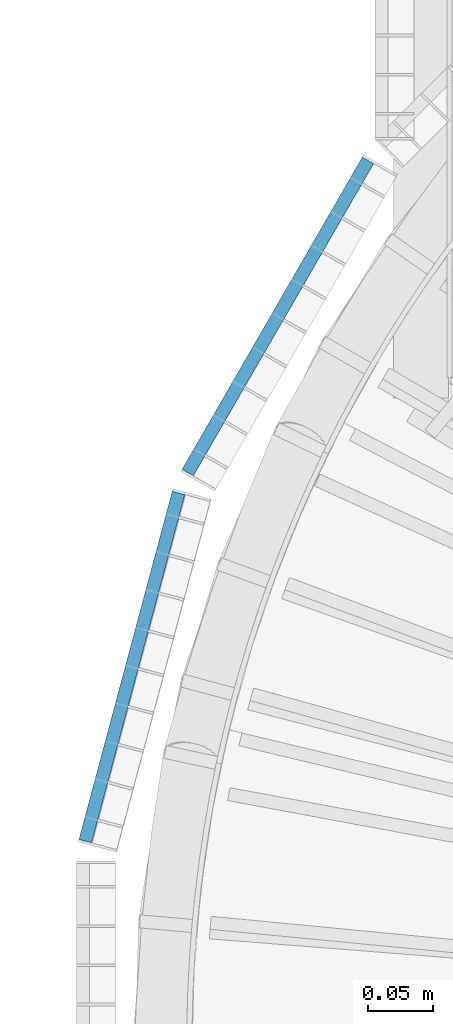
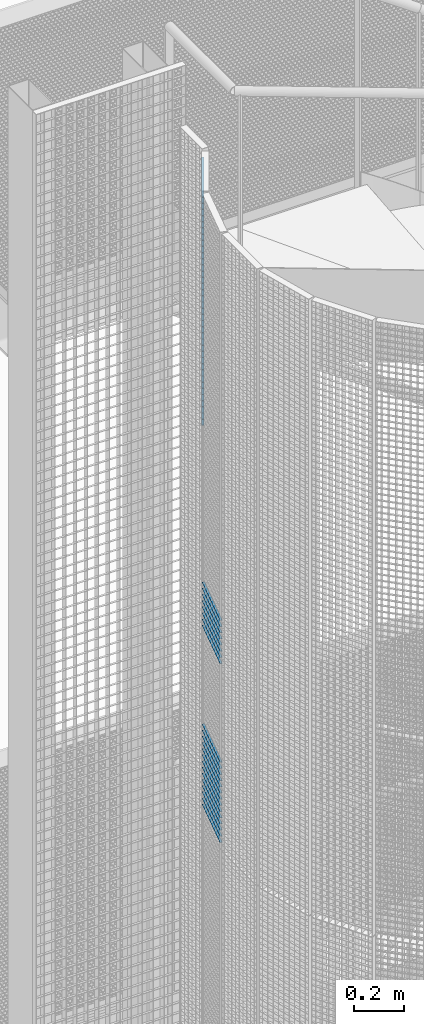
# One storey, part 179 of 1148: 60 beams, 2 elements without a shape of their own.
"""IFC2X3 building model written with IfcOpenShell, lengths in millimetres."""

from ifc_helpers import new_model, si_unit, frame, origin_with_axes, origin_2d_with_axis, place, context, subcontext, project, spatial, rectangle, extrude, material, type_object, element, aggregate, save


model = new_model("IFC2X3")

# Units and contexts
model_context = context("Model", 3, precision=1e-05, world=origin_with_axes())
body_context = subcontext(model_context, "Body", "Model", "MODEL_VIEW")
ifc_project = project(units=[si_unit("LENGTHUNIT", "METRE", prefix="MILLI"), si_unit("AREAUNIT", "SQUARE_METRE"), si_unit("VOLUMEUNIT", "CUBIC_METRE"), si_unit("MASSUNIT", "GRAM", prefix="KILO"), si_unit("TIMEUNIT", "SECOND"), si_unit("PLANEANGLEUNIT", "RADIAN"), si_unit("SOLIDANGLEUNIT", "STERADIAN"), si_unit("THERMODYNAMICTEMPERATUREUNIT", "DEGREE_CELSIUS"), si_unit("LUMINOUSINTENSITYUNIT", "LUMEN")], contexts=[model_context])

# Site, building, storey
site_placement = place(None, origin_with_axes())
site = spatial("IfcSite", under=ifc_project, at=site_placement, Name="Undefined", CompositionType="ELEMENT")
building_placement = place(site_placement, origin_with_axes())
building = spatial("IfcBuilding", under=site, at=building_placement, Name="Undefined", CompositionType="ELEMENT")
storey_placement = place(building_placement, origin_with_axes())
storey = spatial("IfcBuildingStorey", under=building, at=storey_placement, Name="Undefined", CompositionType="ELEMENT", Elevation=0.0)

# Assembly, beams
assembly_1_placement = place(storey_placement, origin_with_axes())
assembly_1 = element("IfcElementAssembly", 1, at=assembly_1_placement, inside=storey, Name="BORDURE", AssemblyPlace="NOTDEFINED", PredefinedType="NOTDEFINED")
ifc_material = material(Name="STEEL/S235JR")
beam_type = type_object("IfcBeamType", Name="PL2*10", PredefinedType="NOTDEFINED")
beam_1_placement = place(assembly_1_placement, frame((-1040.30888419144, 421.618038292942, 15420.0), z_axis=(-0.965925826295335, 0.258819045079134, 0.0), x_axis=(-0.258819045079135, -0.965925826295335, 0.0)))
beam_1 = element("IfcBeam", 2, at=beam_1_placement, type_object=beam_type, material=ifc_material, Name="ENTRETOISE", context=body_context, shape_type="SweptSolid", body=[
    extrude(rectangle(XDim=2.0, YDim=10.0, at=origin_2d_with_axis()), frame((275.999999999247, 9.09494701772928e-13, 1.53210777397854e-14), z_axis=(-1.0, 0.0, 0.0), x_axis=(0.0, -1.0, 0.0)), (0.0, 0.0, 1.0), 276.0),
])
beam_2_placement = place(assembly_1_placement, frame((-1040.30888419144, 421.618038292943, 15900.0), z_axis=(-0.965925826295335, 0.258819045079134, 0.0), x_axis=(-0.258819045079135, -0.965925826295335, 0.0)))
beam_2 = element("IfcBeam", 3, at=beam_2_placement, type_object=beam_type, material=ifc_material, Name="ENTRETOISE", context=body_context, shape_type="SweptSolid", body=[
    extrude(rectangle(XDim=2.0, YDim=10.0, at=origin_2d_with_axis()), frame((275.999999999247, 9.09494701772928e-13, 1.53210777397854e-14), z_axis=(-1.0, 0.0, 0.0), x_axis=(0.0, -1.0, 0.0)), (0.0, 0.0, 1.0), 276.0),
])
beam_3_placement = place(assembly_1_placement, frame((-1040.30888419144, 421.618038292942, 15390.0), z_axis=(-0.965925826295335, 0.258819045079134, 0.0), x_axis=(-0.258819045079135, -0.965925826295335, 0.0)))
beam_3 = element("IfcBeam", 4, at=beam_3_placement, type_object=beam_type, material=ifc_material, Name="ENTRETOISE", context=body_context, shape_type="SweptSolid", body=[
    extrude(rectangle(XDim=2.0, YDim=10.0, at=origin_2d_with_axis()), frame((275.999999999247, 9.09494701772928e-13, 1.53210777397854e-14), z_axis=(-1.0, 0.0, 0.0), x_axis=(0.0, -1.0, 0.0)), (0.0, 0.0, 1.0), 276.0),
])
beam_4_placement = place(assembly_1_placement, frame((-1040.30888419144, 421.618038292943, 15930.0), z_axis=(-0.965925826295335, 0.258819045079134, 0.0), x_axis=(-0.258819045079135, -0.965925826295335, 0.0)))
beam_4 = element("IfcBeam", 5, at=beam_4_placement, type_object=beam_type, material=ifc_material, Name="ENTRETOISE", context=body_context, shape_type="SweptSolid", body=[
    extrude(rectangle(XDim=2.0, YDim=10.0, at=origin_2d_with_axis()), frame((275.999999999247, 9.09494701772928e-13, 1.53210777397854e-14), z_axis=(-1.0, 0.0, 0.0), x_axis=(0.0, -1.0, 0.0)), (0.0, 0.0, 1.0), 276.0),
])
beam_5_placement = place(assembly_1_placement, frame((-1040.30888419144, 421.618038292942, 15360.0), z_axis=(-0.965925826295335, 0.258819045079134, 0.0), x_axis=(-0.258819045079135, -0.965925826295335, 0.0)))
beam_5 = element("IfcBeam", 6, at=beam_5_placement, type_object=beam_type, material=ifc_material, Name="ENTRETOISE", context=body_context, shape_type="SweptSolid", body=[
    extrude(rectangle(XDim=2.0, YDim=10.0, at=origin_2d_with_axis()), frame((275.999999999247, 9.09494701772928e-13, 1.53210777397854e-14), z_axis=(-1.0, 0.0, 0.0), x_axis=(0.0, -1.0, 0.0)), (0.0, 0.0, 1.0), 276.0),
])
beam_6_placement = place(assembly_1_placement, frame((-1040.30888419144, 421.618038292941, 15330.0), z_axis=(-0.965925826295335, 0.258819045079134, 0.0), x_axis=(-0.258819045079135, -0.965925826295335, 0.0)))
beam_6 = element("IfcBeam", 7, at=beam_6_placement, type_object=beam_type, material=ifc_material, Name="ENTRETOISE", context=body_context, shape_type="SweptSolid", body=[
    extrude(rectangle(XDim=2.0, YDim=10.0, at=origin_2d_with_axis()), frame((275.999999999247, 9.09494701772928e-13, 1.53210777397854e-14), z_axis=(-1.0, 0.0, 0.0), x_axis=(0.0, -1.0, 0.0)), (0.0, 0.0, 1.0), 276.0),
])
beam_7_placement = place(assembly_1_placement, frame((-1040.30888419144, 421.618038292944, 15960.0), z_axis=(-0.965925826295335, 0.258819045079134, 0.0), x_axis=(-0.258819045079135, -0.965925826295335, 0.0)))
beam_7 = element("IfcBeam", 8, at=beam_7_placement, type_object=beam_type, material=ifc_material, Name="ENTRETOISE", context=body_context, shape_type="SweptSolid", body=[
    extrude(rectangle(XDim=2.0, YDim=10.0, at=origin_2d_with_axis()), frame((275.999999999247, 9.09494701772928e-13, 1.53210777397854e-14), z_axis=(-1.0, 0.0, 0.0), x_axis=(0.0, -1.0, 0.0)), (0.0, 0.0, 1.0), 276.0),
])
beam_8_placement = place(assembly_1_placement, frame((-1040.30888419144, 421.618038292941, 15300.0), z_axis=(-0.965925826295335, 0.258819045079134, 0.0), x_axis=(-0.258819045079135, -0.965925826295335, 0.0)))
beam_8 = element("IfcBeam", 9, at=beam_8_placement, type_object=beam_type, material=ifc_material, Name="ENTRETOISE", context=body_context, shape_type="SweptSolid", body=[
    extrude(rectangle(XDim=2.0, YDim=10.0, at=origin_2d_with_axis()), frame((275.999999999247, 9.09494701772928e-13, 1.53210777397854e-14), z_axis=(-1.0, 0.0, 0.0), x_axis=(0.0, -1.0, 0.0)), (0.0, 0.0, 1.0), 276.0),
])
beam_9_placement = place(assembly_1_placement, frame((-1040.30888419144, 421.618038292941, 15270.0), z_axis=(-0.965925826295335, 0.258819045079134, 0.0), x_axis=(-0.258819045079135, -0.965925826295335, 0.0)))
beam_9 = element("IfcBeam", 10, at=beam_9_placement, type_object=beam_type, material=ifc_material, Name="ENTRETOISE", context=body_context, shape_type="SweptSolid", body=[
    extrude(rectangle(XDim=2.0, YDim=10.0, at=origin_2d_with_axis()), frame((275.999999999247, 9.09494701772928e-13, 1.53210777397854e-14), z_axis=(-1.0, 0.0, 0.0), x_axis=(0.0, -1.0, 0.0)), (0.0, 0.0, 1.0), 276.0),
])
beam_10_placement = place(assembly_1_placement, frame((-1040.30888419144, 421.618038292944, 15990.0), z_axis=(-0.965925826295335, 0.258819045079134, 0.0), x_axis=(-0.258819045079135, -0.965925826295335, 0.0)))
beam_10 = element("IfcBeam", 11, at=beam_10_placement, type_object=beam_type, material=ifc_material, Name="ENTRETOISE", context=body_context, shape_type="SweptSolid", body=[
    extrude(rectangle(XDim=2.0, YDim=10.0, at=origin_2d_with_axis()), frame((275.999999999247, 9.09494701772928e-13, 1.53210777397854e-14), z_axis=(-1.0, 0.0, 0.0), x_axis=(0.0, -1.0, 0.0)), (0.0, 0.0, 1.0), 276.0),
])
beam_11_placement = place(assembly_1_placement, frame((-1040.30888419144, 421.618038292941, 15240.0), z_axis=(-0.965925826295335, 0.258819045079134, 0.0), x_axis=(-0.258819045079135, -0.965925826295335, 0.0)))
beam_11 = element("IfcBeam", 12, at=beam_11_placement, type_object=beam_type, material=ifc_material, Name="ENTRETOISE", context=body_context, shape_type="SweptSolid", body=[
    extrude(rectangle(XDim=2.0, YDim=10.0, at=origin_2d_with_axis()), frame((275.999999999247, 9.09494701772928e-13, 1.53210777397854e-14), z_axis=(-1.0, 0.0, 0.0), x_axis=(0.0, -1.0, 0.0)), (0.0, 0.0, 1.0), 276.0),
])
beam_12_placement = place(assembly_1_placement, frame((-1040.30888419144, 421.618038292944, 16020.0), z_axis=(-0.965925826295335, 0.258819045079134, 0.0), x_axis=(-0.258819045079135, -0.965925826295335, 0.0)))
beam_12 = element("IfcBeam", 13, at=beam_12_placement, type_object=beam_type, material=ifc_material, Name="ENTRETOISE", context=body_context, shape_type="SweptSolid", body=[
    extrude(rectangle(XDim=2.0, YDim=10.0, at=origin_2d_with_axis()), frame((275.999999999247, 9.09494701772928e-13, 1.53210777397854e-14), z_axis=(-1.0, 0.0, 0.0), x_axis=(0.0, -1.0, 0.0)), (0.0, 0.0, 1.0), 276.0),
])
beam_13_placement = place(assembly_1_placement, frame((-1040.30888419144, 421.618038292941, 15210.0), z_axis=(-0.965925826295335, 0.258819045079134, 0.0), x_axis=(-0.258819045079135, -0.965925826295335, 0.0)))
beam_13 = element("IfcBeam", 14, at=beam_13_placement, type_object=beam_type, material=ifc_material, Name="ENTRETOISE", context=body_context, shape_type="SweptSolid", body=[
    extrude(rectangle(XDim=2.0, YDim=10.0, at=origin_2d_with_axis()), frame((275.999999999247, 9.09494701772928e-13, 1.53210777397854e-14), z_axis=(-1.0, 0.0, 0.0), x_axis=(0.0, -1.0, 0.0)), (0.0, 0.0, 1.0), 276.0),
])
beam_14_placement = place(assembly_1_placement, frame((-1040.30888419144, 421.618038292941, 15180.0), z_axis=(-0.965925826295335, 0.258819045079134, 0.0), x_axis=(-0.258819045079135, -0.965925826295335, 0.0)))
beam_14 = element("IfcBeam", 15, at=beam_14_placement, type_object=beam_type, material=ifc_material, Name="ENTRETOISE", context=body_context, shape_type="SweptSolid", body=[
    extrude(rectangle(XDim=2.0, YDim=10.0, at=origin_2d_with_axis()), frame((275.999999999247, 9.09494701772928e-13, 1.53210777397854e-14), z_axis=(-1.0, 0.0, 0.0), x_axis=(0.0, -1.0, 0.0)), (0.0, 0.0, 1.0), 276.0),
])
beam_15_placement = place(assembly_1_placement, frame((-1040.30888419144, 421.618038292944, 16050.0), z_axis=(-0.965925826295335, 0.258819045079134, 0.0), x_axis=(-0.258819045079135, -0.965925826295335, 0.0)))
beam_15 = element("IfcBeam", 16, at=beam_15_placement, type_object=beam_type, material=ifc_material, Name="ENTRETOISE", context=body_context, shape_type="SweptSolid", body=[
    extrude(rectangle(XDim=2.0, YDim=10.0, at=origin_2d_with_axis()), frame((275.999999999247, 9.09494701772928e-13, 1.53210777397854e-14), z_axis=(-1.0, 0.0, 0.0), x_axis=(0.0, -1.0, 0.0)), (0.0, 0.0, 1.0), 276.0),
])
beam_16_placement = place(assembly_1_placement, frame((-1040.30888419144, 421.618038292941, 15150.0), z_axis=(-0.965925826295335, 0.258819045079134, 0.0), x_axis=(-0.258819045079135, -0.965925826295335, 0.0)))
beam_16 = element("IfcBeam", 17, at=beam_16_placement, type_object=beam_type, material=ifc_material, Name="ENTRETOISE", context=body_context, shape_type="SweptSolid", body=[
    extrude(rectangle(XDim=2.0, YDim=10.0, at=origin_2d_with_axis()), frame((275.999999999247, 9.09494701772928e-13, 1.53210777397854e-14), z_axis=(-1.0, 0.0, 0.0), x_axis=(0.0, -1.0, 0.0)), (0.0, 0.0, 1.0), 276.0),
])
beam_17_placement = place(assembly_1_placement, frame((-1040.30888419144, 421.618038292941, 15120.0), z_axis=(-0.965925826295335, 0.258819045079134, 0.0), x_axis=(-0.258819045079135, -0.965925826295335, 0.0)))
beam_17 = element("IfcBeam", 18, at=beam_17_placement, type_object=beam_type, material=ifc_material, Name="ENTRETOISE", context=body_context, shape_type="SweptSolid", body=[
    extrude(rectangle(XDim=2.0, YDim=10.0, at=origin_2d_with_axis()), frame((275.999999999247, 9.09494701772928e-13, 1.53210777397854e-14), z_axis=(-1.0, 0.0, 0.0), x_axis=(0.0, -1.0, 0.0)), (0.0, 0.0, 1.0), 276.0),
])
beam_18_placement = place(assembly_1_placement, frame((-1040.30888419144, 421.618038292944, 16080.0), z_axis=(-0.965925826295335, 0.258819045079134, 0.0), x_axis=(-0.258819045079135, -0.965925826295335, 0.0)))
beam_18 = element("IfcBeam", 19, at=beam_18_placement, type_object=beam_type, material=ifc_material, Name="ENTRETOISE", context=body_context, shape_type="SweptSolid", body=[
    extrude(rectangle(XDim=2.0, YDim=10.0, at=origin_2d_with_axis()), frame((275.999999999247, 9.09494701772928e-13, 1.53210777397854e-14), z_axis=(-1.0, 0.0, 0.0), x_axis=(0.0, -1.0, 0.0)), (0.0, 0.0, 1.0), 276.0),
])
beam_19_placement = place(assembly_1_placement, frame((-1040.30888419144, 421.618038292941, 15090.0), z_axis=(-0.965925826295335, 0.258819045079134, 0.0), x_axis=(-0.258819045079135, -0.965925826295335, 0.0)))
beam_19 = element("IfcBeam", 20, at=beam_19_placement, type_object=beam_type, material=ifc_material, Name="ENTRETOISE", context=body_context, shape_type="SweptSolid", body=[
    extrude(rectangle(XDim=2.0, YDim=10.0, at=origin_2d_with_axis()), frame((275.999999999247, 9.09494701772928e-13, 1.53210777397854e-14), z_axis=(-1.0, 0.0, 0.0), x_axis=(0.0, -1.0, 0.0)), (0.0, 0.0, 1.0), 276.0),
])
beam_20_placement = place(assembly_1_placement, frame((-1040.30888419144, 421.618038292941, 15060.0), z_axis=(-0.965925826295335, 0.258819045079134, 0.0), x_axis=(-0.258819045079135, -0.965925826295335, 0.0)))
beam_20 = element("IfcBeam", 21, at=beam_20_placement, type_object=beam_type, material=ifc_material, Name="ENTRETOISE", context=body_context, shape_type="SweptSolid", body=[
    extrude(rectangle(XDim=2.0, YDim=10.0, at=origin_2d_with_axis()), frame((275.999999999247, 9.09494701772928e-13, 1.53210777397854e-14), z_axis=(-1.0, 0.0, 0.0), x_axis=(0.0, -1.0, 0.0)), (0.0, 0.0, 1.0), 276.0),
])
beam_21_placement = place(assembly_1_placement, frame((-1040.30888419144, 421.618038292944, 16110.0), z_axis=(-0.965925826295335, 0.258819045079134, 0.0), x_axis=(-0.258819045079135, -0.965925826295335, 0.0)))
beam_21 = element("IfcBeam", 22, at=beam_21_placement, type_object=beam_type, material=ifc_material, Name="ENTRETOISE", context=body_context, shape_type="SweptSolid", body=[
    extrude(rectangle(XDim=2.0, YDim=10.0, at=origin_2d_with_axis()), frame((275.999999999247, 9.09494701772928e-13, 1.53210777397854e-14), z_axis=(-1.0, 0.0, 0.0), x_axis=(0.0, -1.0, 0.0)), (0.0, 0.0, 1.0), 276.0),
])
beam_22_placement = place(assembly_1_placement, frame((-1040.30888419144, 421.618038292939, 15030.0), z_axis=(-0.965925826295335, 0.258819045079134, 0.0), x_axis=(-0.258819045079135, -0.965925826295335, 0.0)))
beam_22 = element("IfcBeam", 23, at=beam_22_placement, type_object=beam_type, material=ifc_material, Name="ENTRETOISE", context=body_context, shape_type="SweptSolid", body=[
    extrude(rectangle(XDim=2.0, YDim=10.0, at=origin_2d_with_axis()), frame((275.999999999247, 9.09494701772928e-13, 1.53210777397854e-14), z_axis=(-1.0, 0.0, 0.0), x_axis=(0.0, -1.0, 0.0)), (0.0, 0.0, 1.0), 276.0),
])
aggregate(assembly_1, [beam_1, beam_2, beam_3, beam_4, beam_5, beam_6, beam_7, beam_8, beam_9, beam_10, beam_11, beam_12, beam_13, beam_14, beam_15, beam_16, beam_17, beam_18, beam_19, beam_20, beam_21, beam_22])

assembly_2_placement = place(storey_placement, origin_with_axes())
assembly_2 = element("IfcElementAssembly", 24, at=assembly_2_placement, inside=storey, Name="BORDURE", AssemblyPlace="NOTDEFINED", PredefinedType="NOTDEFINED")
beam_23_placement = place(assembly_2_placement, frame((-895.303964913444, 676.248044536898, 17970.0), z_axis=(-0.866025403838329, 0.499999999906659, 0.0), x_axis=(-0.49999999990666, -0.866025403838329, 0.0)))
beam_23 = element("IfcBeam", 25, at=beam_23_placement, type_object=beam_type, material=ifc_material, Name="ENTRETOISE", context=body_context, shape_type="SweptSolid", body=[
    extrude(rectangle(XDim=2.0, YDim=10.0, at=origin_2d_with_axis()), frame((275.999999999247, 9.09494701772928e-13, 1.53210777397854e-14), z_axis=(-1.0, 0.0, 0.0), x_axis=(0.0, -1.0, 0.0)), (0.0, 0.0, 1.0), 276.0),
])
beam_24_placement = place(assembly_2_placement, frame((-895.303964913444, 676.248044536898, 17940.0), z_axis=(-0.866025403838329, 0.499999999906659, 0.0), x_axis=(-0.49999999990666, -0.866025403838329, 0.0)))
beam_24 = element("IfcBeam", 26, at=beam_24_placement, type_object=beam_type, material=ifc_material, Name="ENTRETOISE", context=body_context, shape_type="SweptSolid", body=[
    extrude(rectangle(XDim=2.0, YDim=10.0, at=origin_2d_with_axis()), frame((275.999999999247, 9.09494701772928e-13, 1.53210777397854e-14), z_axis=(-1.0, 0.0, 0.0), x_axis=(0.0, -1.0, 0.0)), (0.0, 0.0, 1.0), 276.0),
])
beam_25_placement = place(assembly_2_placement, frame((-895.303964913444, 676.248044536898, 17910.0), z_axis=(-0.866025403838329, 0.499999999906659, 0.0), x_axis=(-0.49999999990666, -0.866025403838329, 0.0)))
beam_25 = element("IfcBeam", 27, at=beam_25_placement, type_object=beam_type, material=ifc_material, Name="ENTRETOISE", context=body_context, shape_type="SweptSolid", body=[
    extrude(rectangle(XDim=2.0, YDim=10.0, at=origin_2d_with_axis()), frame((275.999999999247, 9.09494701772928e-13, 1.53210777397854e-14), z_axis=(-1.0, 0.0, 0.0), x_axis=(0.0, -1.0, 0.0)), (0.0, 0.0, 1.0), 276.0),
])
beam_26_placement = place(assembly_2_placement, frame((-895.303964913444, 676.248044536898, 17880.0), z_axis=(-0.866025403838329, 0.499999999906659, 0.0), x_axis=(-0.49999999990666, -0.866025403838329, 0.0)))
beam_26 = element("IfcBeam", 28, at=beam_26_placement, type_object=beam_type, material=ifc_material, Name="ENTRETOISE", context=body_context, shape_type="SweptSolid", body=[
    extrude(rectangle(XDim=2.0, YDim=10.0, at=origin_2d_with_axis()), frame((275.999999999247, 9.09494701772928e-13, 1.53210777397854e-14), z_axis=(-1.0, 0.0, 0.0), x_axis=(0.0, -1.0, 0.0)), (0.0, 0.0, 1.0), 276.0),
])
beam_27_placement = place(assembly_2_placement, frame((-895.303964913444, 676.248044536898, 17850.0), z_axis=(-0.866025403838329, 0.499999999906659, 0.0), x_axis=(-0.49999999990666, -0.866025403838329, 0.0)))
beam_27 = element("IfcBeam", 29, at=beam_27_placement, type_object=beam_type, material=ifc_material, Name="ENTRETOISE", context=body_context, shape_type="SweptSolid", body=[
    extrude(rectangle(XDim=2.0, YDim=10.0, at=origin_2d_with_axis()), frame((275.999999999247, 9.09494701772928e-13, 1.53210777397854e-14), z_axis=(-1.0, 0.0, 0.0), x_axis=(0.0, -1.0, 0.0)), (0.0, 0.0, 1.0), 276.0),
])
beam_28_placement = place(assembly_2_placement, frame((-895.303964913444, 676.248044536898, 17820.0), z_axis=(-0.866025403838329, 0.499999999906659, 0.0), x_axis=(-0.49999999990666, -0.866025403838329, 0.0)))
beam_28 = element("IfcBeam", 30, at=beam_28_placement, type_object=beam_type, material=ifc_material, Name="ENTRETOISE", context=body_context, shape_type="SweptSolid", body=[
    extrude(rectangle(XDim=2.0, YDim=10.0, at=origin_2d_with_axis()), frame((275.999999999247, 9.09494701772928e-13, 1.53210777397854e-14), z_axis=(-1.0, 0.0, 0.0), x_axis=(0.0, -1.0, 0.0)), (0.0, 0.0, 1.0), 276.0),
])
beam_29_placement = place(assembly_2_placement, frame((-895.303964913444, 676.248044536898, 17790.0), z_axis=(-0.866025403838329, 0.499999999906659, 0.0), x_axis=(-0.49999999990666, -0.866025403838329, 0.0)))
beam_29 = element("IfcBeam", 31, at=beam_29_placement, type_object=beam_type, material=ifc_material, Name="ENTRETOISE", context=body_context, shape_type="SweptSolid", body=[
    extrude(rectangle(XDim=2.0, YDim=10.0, at=origin_2d_with_axis()), frame((275.999999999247, 9.09494701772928e-13, 1.53210777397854e-14), z_axis=(-1.0, 0.0, 0.0), x_axis=(0.0, -1.0, 0.0)), (0.0, 0.0, 1.0), 276.0),
])
beam_30_placement = place(assembly_2_placement, frame((-895.303964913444, 676.248044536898, 17760.0), z_axis=(-0.866025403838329, 0.499999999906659, 0.0), x_axis=(-0.49999999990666, -0.866025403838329, 0.0)))
beam_30 = element("IfcBeam", 32, at=beam_30_placement, type_object=beam_type, material=ifc_material, Name="ENTRETOISE", context=body_context, shape_type="SweptSolid", body=[
    extrude(rectangle(XDim=2.0, YDim=10.0, at=origin_2d_with_axis()), frame((275.999999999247, 9.09494701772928e-13, 1.53210777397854e-14), z_axis=(-1.0, 0.0, 0.0), x_axis=(0.0, -1.0, 0.0)), (0.0, 0.0, 1.0), 276.0),
])
beam_31_placement = place(assembly_2_placement, frame((-895.303964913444, 676.248044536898, 17730.0), z_axis=(-0.866025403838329, 0.499999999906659, 0.0), x_axis=(-0.49999999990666, -0.866025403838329, 0.0)))
beam_31 = element("IfcBeam", 33, at=beam_31_placement, type_object=beam_type, material=ifc_material, Name="ENTRETOISE", context=body_context, shape_type="SweptSolid", body=[
    extrude(rectangle(XDim=2.0, YDim=10.0, at=origin_2d_with_axis()), frame((275.999999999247, 9.09494701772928e-13, 1.53210777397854e-14), z_axis=(-1.0, 0.0, 0.0), x_axis=(0.0, -1.0, 0.0)), (0.0, 0.0, 1.0), 276.0),
])
beam_32_placement = place(assembly_2_placement, frame((-895.303964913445, 676.248044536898, 17700.0), z_axis=(-0.866025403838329, 0.499999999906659, 0.0), x_axis=(-0.49999999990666, -0.866025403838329, 0.0)))
beam_32 = element("IfcBeam", 34, at=beam_32_placement, type_object=beam_type, material=ifc_material, Name="ENTRETOISE", context=body_context, shape_type="SweptSolid", body=[
    extrude(rectangle(XDim=2.0, YDim=10.0, at=origin_2d_with_axis()), frame((275.999999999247, 9.09494701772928e-13, 1.53210777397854e-14), z_axis=(-1.0, 0.0, 0.0), x_axis=(0.0, -1.0, 0.0)), (0.0, 0.0, 1.0), 276.0),
])
beam_33_placement = place(assembly_2_placement, frame((-895.303964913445, 676.248044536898, 17670.0), z_axis=(-0.866025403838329, 0.499999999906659, 0.0), x_axis=(-0.49999999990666, -0.866025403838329, 0.0)))
beam_33 = element("IfcBeam", 35, at=beam_33_placement, type_object=beam_type, material=ifc_material, Name="ENTRETOISE", context=body_context, shape_type="SweptSolid", body=[
    extrude(rectangle(XDim=2.0, YDim=10.0, at=origin_2d_with_axis()), frame((275.999999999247, 9.09494701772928e-13, 1.53210777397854e-14), z_axis=(-1.0, 0.0, 0.0), x_axis=(0.0, -1.0, 0.0)), (0.0, 0.0, 1.0), 276.0),
])
beam_34_placement = place(assembly_2_placement, frame((-895.303964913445, 676.248044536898, 17640.0), z_axis=(-0.866025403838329, 0.499999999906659, 0.0), x_axis=(-0.49999999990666, -0.866025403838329, 0.0)))
beam_34 = element("IfcBeam", 36, at=beam_34_placement, type_object=beam_type, material=ifc_material, Name="ENTRETOISE", context=body_context, shape_type="SweptSolid", body=[
    extrude(rectangle(XDim=2.0, YDim=10.0, at=origin_2d_with_axis()), frame((275.999999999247, 9.09494701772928e-13, 1.53210777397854e-14), z_axis=(-1.0, 0.0, 0.0), x_axis=(0.0, -1.0, 0.0)), (0.0, 0.0, 1.0), 276.0),
])
beam_35_placement = place(assembly_2_placement, frame((-895.303964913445, 676.248044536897, 17610.0), z_axis=(-0.866025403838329, 0.499999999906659, 0.0), x_axis=(-0.49999999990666, -0.866025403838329, 0.0)))
beam_35 = element("IfcBeam", 37, at=beam_35_placement, type_object=beam_type, material=ifc_material, Name="ENTRETOISE", context=body_context, shape_type="SweptSolid", body=[
    extrude(rectangle(XDim=2.0, YDim=10.0, at=origin_2d_with_axis()), frame((275.999999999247, 9.09494701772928e-13, 1.53210777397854e-14), z_axis=(-1.0, 0.0, 0.0), x_axis=(0.0, -1.0, 0.0)), (0.0, 0.0, 1.0), 276.0),
])
beam_36_placement = place(assembly_2_placement, frame((-895.303964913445, 676.248044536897, 17580.0), z_axis=(-0.866025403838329, 0.499999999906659, 0.0), x_axis=(-0.49999999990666, -0.866025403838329, 0.0)))
beam_36 = element("IfcBeam", 38, at=beam_36_placement, type_object=beam_type, material=ifc_material, Name="ENTRETOISE", context=body_context, shape_type="SweptSolid", body=[
    extrude(rectangle(XDim=2.0, YDim=10.0, at=origin_2d_with_axis()), frame((275.999999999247, 9.09494701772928e-13, 1.53210777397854e-14), z_axis=(-1.0, 0.0, 0.0), x_axis=(0.0, -1.0, 0.0)), (0.0, 0.0, 1.0), 276.0),
])
beam_37_placement = place(assembly_2_placement, frame((-895.303964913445, 676.248044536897, 17550.0), z_axis=(-0.866025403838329, 0.499999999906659, 0.0), x_axis=(-0.49999999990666, -0.866025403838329, 0.0)))
beam_37 = element("IfcBeam", 39, at=beam_37_placement, type_object=beam_type, material=ifc_material, Name="ENTRETOISE", context=body_context, shape_type="SweptSolid", body=[
    extrude(rectangle(XDim=2.0, YDim=10.0, at=origin_2d_with_axis()), frame((275.999999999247, 9.09494701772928e-13, 1.53210777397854e-14), z_axis=(-1.0, 0.0, 0.0), x_axis=(0.0, -1.0, 0.0)), (0.0, 0.0, 1.0), 276.0),
])
beam_38_placement = place(assembly_2_placement, frame((-895.303964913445, 676.248044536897, 17520.0), z_axis=(-0.866025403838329, 0.499999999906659, 0.0), x_axis=(-0.49999999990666, -0.866025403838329, 0.0)))
beam_38 = element("IfcBeam", 40, at=beam_38_placement, type_object=beam_type, material=ifc_material, Name="ENTRETOISE", context=body_context, shape_type="SweptSolid", body=[
    extrude(rectangle(XDim=2.0, YDim=10.0, at=origin_2d_with_axis()), frame((275.999999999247, 9.09494701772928e-13, 1.53210777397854e-14), z_axis=(-1.0, 0.0, 0.0), x_axis=(0.0, -1.0, 0.0)), (0.0, 0.0, 1.0), 276.0),
])
beam_39_placement = place(assembly_2_placement, frame((-895.303964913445, 676.248044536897, 17490.0), z_axis=(-0.866025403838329, 0.499999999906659, 0.0), x_axis=(-0.49999999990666, -0.866025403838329, 0.0)))
beam_39 = element("IfcBeam", 41, at=beam_39_placement, type_object=beam_type, material=ifc_material, Name="ENTRETOISE", context=body_context, shape_type="SweptSolid", body=[
    extrude(rectangle(XDim=2.0, YDim=10.0, at=origin_2d_with_axis()), frame((275.999999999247, 9.09494701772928e-13, 1.53210777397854e-14), z_axis=(-1.0, 0.0, 0.0), x_axis=(0.0, -1.0, 0.0)), (0.0, 0.0, 1.0), 276.0),
])
beam_40_placement = place(assembly_2_placement, frame((-895.303964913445, 676.248044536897, 17460.0), z_axis=(-0.866025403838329, 0.499999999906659, 0.0), x_axis=(-0.49999999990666, -0.866025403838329, 0.0)))
beam_40 = element("IfcBeam", 42, at=beam_40_placement, type_object=beam_type, material=ifc_material, Name="ENTRETOISE", context=body_context, shape_type="SweptSolid", body=[
    extrude(rectangle(XDim=2.0, YDim=10.0, at=origin_2d_with_axis()), frame((275.999999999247, 9.09494701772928e-13, 1.53210777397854e-14), z_axis=(-1.0, 0.0, 0.0), x_axis=(0.0, -1.0, 0.0)), (0.0, 0.0, 1.0), 276.0),
])
beam_41_placement = place(assembly_2_placement, frame((-895.303964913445, 676.248044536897, 17430.0), z_axis=(-0.866025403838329, 0.499999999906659, 0.0), x_axis=(-0.49999999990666, -0.866025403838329, 0.0)))
beam_41 = element("IfcBeam", 43, at=beam_41_placement, type_object=beam_type, material=ifc_material, Name="ENTRETOISE", context=body_context, shape_type="SweptSolid", body=[
    extrude(rectangle(XDim=2.0, YDim=10.0, at=origin_2d_with_axis()), frame((275.999999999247, 9.09494701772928e-13, 1.53210777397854e-14), z_axis=(-1.0, 0.0, 0.0), x_axis=(0.0, -1.0, 0.0)), (0.0, 0.0, 1.0), 276.0),
])
beam_42_placement = place(assembly_2_placement, frame((-895.303964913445, 676.248044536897, 17400.0), z_axis=(-0.866025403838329, 0.499999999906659, 0.0), x_axis=(-0.49999999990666, -0.866025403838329, 0.0)))
beam_42 = element("IfcBeam", 44, at=beam_42_placement, type_object=beam_type, material=ifc_material, Name="ENTRETOISE", context=body_context, shape_type="SweptSolid", body=[
    extrude(rectangle(XDim=2.0, YDim=10.0, at=origin_2d_with_axis()), frame((275.999999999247, 9.09494701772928e-13, 1.53210777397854e-14), z_axis=(-1.0, 0.0, 0.0), x_axis=(0.0, -1.0, 0.0)), (0.0, 0.0, 1.0), 276.0),
])
beam_43_placement = place(assembly_2_placement, frame((-895.303964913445, 676.248044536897, 17370.0), z_axis=(-0.866025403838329, 0.499999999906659, 0.0), x_axis=(-0.49999999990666, -0.866025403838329, 0.0)))
beam_43 = element("IfcBeam", 45, at=beam_43_placement, type_object=beam_type, material=ifc_material, Name="ENTRETOISE", context=body_context, shape_type="SweptSolid", body=[
    extrude(rectangle(XDim=2.0, YDim=10.0, at=origin_2d_with_axis()), frame((275.999999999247, 9.09494701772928e-13, 1.53210777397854e-14), z_axis=(-1.0, 0.0, 0.0), x_axis=(0.0, -1.0, 0.0)), (0.0, 0.0, 1.0), 276.0),
])
beam_44_placement = place(assembly_2_placement, frame((-895.303964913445, 676.248044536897, 17340.0), z_axis=(-0.866025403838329, 0.499999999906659, 0.0), x_axis=(-0.49999999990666, -0.866025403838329, 0.0)))
beam_44 = element("IfcBeam", 46, at=beam_44_placement, type_object=beam_type, material=ifc_material, Name="ENTRETOISE", context=body_context, shape_type="SweptSolid", body=[
    extrude(rectangle(XDim=2.0, YDim=10.0, at=origin_2d_with_axis()), frame((275.999999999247, 9.09494701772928e-13, 1.53210777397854e-14), z_axis=(-1.0, 0.0, 0.0), x_axis=(0.0, -1.0, 0.0)), (0.0, 0.0, 1.0), 276.0),
])
beam_45_placement = place(assembly_2_placement, frame((-895.303964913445, 676.248044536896, 17310.0), z_axis=(-0.866025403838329, 0.499999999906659, 0.0), x_axis=(-0.49999999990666, -0.866025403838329, 0.0)))
beam_45 = element("IfcBeam", 47, at=beam_45_placement, type_object=beam_type, material=ifc_material, Name="ENTRETOISE", context=body_context, shape_type="SweptSolid", body=[
    extrude(rectangle(XDim=2.0, YDim=10.0, at=origin_2d_with_axis()), frame((275.999999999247, 9.09494701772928e-13, 1.53210777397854e-14), z_axis=(-1.0, 0.0, 0.0), x_axis=(0.0, -1.0, 0.0)), (0.0, 0.0, 1.0), 276.0),
])
beam_46_placement = place(assembly_2_placement, frame((-895.303964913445, 676.248044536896, 17280.0), z_axis=(-0.866025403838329, 0.499999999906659, 0.0), x_axis=(-0.49999999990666, -0.866025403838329, 0.0)))
beam_46 = element("IfcBeam", 48, at=beam_46_placement, type_object=beam_type, material=ifc_material, Name="ENTRETOISE", context=body_context, shape_type="SweptSolid", body=[
    extrude(rectangle(XDim=2.0, YDim=10.0, at=origin_2d_with_axis()), frame((275.999999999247, 9.09494701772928e-13, 1.53210777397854e-14), z_axis=(-1.0, 0.0, 0.0), x_axis=(0.0, -1.0, 0.0)), (0.0, 0.0, 1.0), 276.0),
])
beam_47_placement = place(assembly_2_placement, frame((-895.303964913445, 676.248044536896, 17250.0), z_axis=(-0.866025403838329, 0.499999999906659, 0.0), x_axis=(-0.49999999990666, -0.866025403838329, 0.0)))
beam_47 = element("IfcBeam", 49, at=beam_47_placement, type_object=beam_type, material=ifc_material, Name="ENTRETOISE", context=body_context, shape_type="SweptSolid", body=[
    extrude(rectangle(XDim=2.0, YDim=10.0, at=origin_2d_with_axis()), frame((275.999999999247, 9.09494701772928e-13, 1.53210777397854e-14), z_axis=(-1.0, 0.0, 0.0), x_axis=(0.0, -1.0, 0.0)), (0.0, 0.0, 1.0), 276.0),
])
beam_48_placement = place(assembly_2_placement, frame((-895.303964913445, 676.248044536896, 17220.0), z_axis=(-0.866025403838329, 0.499999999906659, 0.0), x_axis=(-0.49999999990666, -0.866025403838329, 0.0)))
beam_48 = element("IfcBeam", 50, at=beam_48_placement, type_object=beam_type, material=ifc_material, Name="ENTRETOISE", context=body_context, shape_type="SweptSolid", body=[
    extrude(rectangle(XDim=2.0, YDim=10.0, at=origin_2d_with_axis()), frame((275.999999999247, 9.09494701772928e-13, 1.53210777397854e-14), z_axis=(-1.0, 0.0, 0.0), x_axis=(0.0, -1.0, 0.0)), (0.0, 0.0, 1.0), 276.0),
])
beam_49_placement = place(assembly_2_placement, frame((-895.303964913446, 676.248044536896, 17190.0), z_axis=(-0.866025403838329, 0.499999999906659, 0.0), x_axis=(-0.49999999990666, -0.866025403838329, 0.0)))
beam_49 = element("IfcBeam", 51, at=beam_49_placement, type_object=beam_type, material=ifc_material, Name="ENTRETOISE", context=body_context, shape_type="SweptSolid", body=[
    extrude(rectangle(XDim=2.0, YDim=10.0, at=origin_2d_with_axis()), frame((275.999999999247, 9.09494701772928e-13, 1.53210777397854e-14), z_axis=(-1.0, 0.0, 0.0), x_axis=(0.0, -1.0, 0.0)), (0.0, 0.0, 1.0), 276.0),
])
beam_50_placement = place(assembly_2_placement, frame((-895.303964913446, 676.248044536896, 17160.0), z_axis=(-0.866025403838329, 0.499999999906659, 0.0), x_axis=(-0.49999999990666, -0.866025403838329, 0.0)))
beam_50 = element("IfcBeam", 52, at=beam_50_placement, type_object=beam_type, material=ifc_material, Name="ENTRETOISE", context=body_context, shape_type="SweptSolid", body=[
    extrude(rectangle(XDim=2.0, YDim=10.0, at=origin_2d_with_axis()), frame((275.999999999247, 9.09494701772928e-13, 1.53210777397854e-14), z_axis=(-1.0, 0.0, 0.0), x_axis=(0.0, -1.0, 0.0)), (0.0, 0.0, 1.0), 276.0),
])
beam_51_placement = place(assembly_2_placement, frame((-895.303964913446, 676.248044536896, 17130.0), z_axis=(-0.866025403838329, 0.499999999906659, 0.0), x_axis=(-0.49999999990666, -0.866025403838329, 0.0)))
beam_51 = element("IfcBeam", 53, at=beam_51_placement, type_object=beam_type, material=ifc_material, Name="ENTRETOISE", context=body_context, shape_type="SweptSolid", body=[
    extrude(rectangle(XDim=2.0, YDim=10.0, at=origin_2d_with_axis()), frame((275.999999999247, 9.09494701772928e-13, 1.53210777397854e-14), z_axis=(-1.0, 0.0, 0.0), x_axis=(0.0, -1.0, 0.0)), (0.0, 0.0, 1.0), 276.0),
])
beam_52_placement = place(assembly_2_placement, frame((-895.303964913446, 676.248044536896, 17100.0), z_axis=(-0.866025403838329, 0.499999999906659, 0.0), x_axis=(-0.49999999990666, -0.866025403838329, 0.0)))
beam_52 = element("IfcBeam", 54, at=beam_52_placement, type_object=beam_type, material=ifc_material, Name="ENTRETOISE", context=body_context, shape_type="SweptSolid", body=[
    extrude(rectangle(XDim=2.0, YDim=10.0, at=origin_2d_with_axis()), frame((275.999999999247, 9.09494701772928e-13, 1.53210777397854e-14), z_axis=(-1.0, 0.0, 0.0), x_axis=(0.0, -1.0, 0.0)), (0.0, 0.0, 1.0), 276.0),
])
beam_53_placement = place(assembly_2_placement, frame((-895.303964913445, 676.248044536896, 17070.0), z_axis=(-0.866025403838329, 0.499999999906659, 0.0), x_axis=(-0.49999999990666, -0.866025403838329, 0.0)))
beam_53 = element("IfcBeam", 55, at=beam_53_placement, type_object=beam_type, material=ifc_material, Name="ENTRETOISE", context=body_context, shape_type="SweptSolid", body=[
    extrude(rectangle(XDim=2.0, YDim=10.0, at=origin_2d_with_axis()), frame((275.999999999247, 9.09494701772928e-13, 1.53210777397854e-14), z_axis=(-1.0, 0.0, 0.0), x_axis=(0.0, -1.0, 0.0)), (0.0, 0.0, 1.0), 276.0),
])
beam_54_placement = place(assembly_2_placement, frame((-895.303964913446, 676.248044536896, 17040.0), z_axis=(-0.866025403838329, 0.499999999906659, 0.0), x_axis=(-0.49999999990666, -0.866025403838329, 0.0)))
beam_54 = element("IfcBeam", 56, at=beam_54_placement, type_object=beam_type, material=ifc_material, Name="ENTRETOISE", context=body_context, shape_type="SweptSolid", body=[
    extrude(rectangle(XDim=2.0, YDim=10.0, at=origin_2d_with_axis()), frame((275.999999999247, 9.09494701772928e-13, 1.53210777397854e-14), z_axis=(-1.0, 0.0, 0.0), x_axis=(0.0, -1.0, 0.0)), (0.0, 0.0, 1.0), 276.0),
])
beam_55_placement = place(assembly_2_placement, frame((-895.303964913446, 676.248044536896, 17010.0), z_axis=(-0.866025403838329, 0.499999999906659, 0.0), x_axis=(-0.49999999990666, -0.866025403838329, 0.0)))
beam_55 = element("IfcBeam", 57, at=beam_55_placement, type_object=beam_type, material=ifc_material, Name="ENTRETOISE", context=body_context, shape_type="SweptSolid", body=[
    extrude(rectangle(XDim=2.0, YDim=10.0, at=origin_2d_with_axis()), frame((275.999999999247, 9.09494701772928e-13, 1.53210777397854e-14), z_axis=(-1.0, 0.0, 0.0), x_axis=(0.0, -1.0, 0.0)), (0.0, 0.0, 1.0), 276.0),
])
beam_56_placement = place(assembly_2_placement, frame((-895.303964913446, 676.248044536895, 16980.0), z_axis=(-0.866025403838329, 0.499999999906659, 0.0), x_axis=(-0.49999999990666, -0.866025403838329, 0.0)))
beam_56 = element("IfcBeam", 58, at=beam_56_placement, type_object=beam_type, material=ifc_material, Name="ENTRETOISE", context=body_context, shape_type="SweptSolid", body=[
    extrude(rectangle(XDim=2.0, YDim=10.0, at=origin_2d_with_axis()), frame((275.999999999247, 9.09494701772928e-13, 1.53210777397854e-14), z_axis=(-1.0, 0.0, 0.0), x_axis=(0.0, -1.0, 0.0)), (0.0, 0.0, 1.0), 276.0),
])
beam_57_placement = place(assembly_2_placement, frame((-895.303964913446, 676.248044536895, 16950.0), z_axis=(-0.866025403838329, 0.499999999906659, 0.0), x_axis=(-0.49999999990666, -0.866025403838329, 0.0)))
beam_57 = element("IfcBeam", 59, at=beam_57_placement, type_object=beam_type, material=ifc_material, Name="ENTRETOISE", context=body_context, shape_type="SweptSolid", body=[
    extrude(rectangle(XDim=2.0, YDim=10.0, at=origin_2d_with_axis()), frame((275.999999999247, 9.09494701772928e-13, 1.53210777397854e-14), z_axis=(-1.0, 0.0, 0.0), x_axis=(0.0, -1.0, 0.0)), (0.0, 0.0, 1.0), 276.0),
])
beam_58_placement = place(assembly_2_placement, frame((-895.303964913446, 676.248044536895, 16920.0), z_axis=(-0.866025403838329, 0.499999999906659, 0.0), x_axis=(-0.49999999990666, -0.866025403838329, 0.0)))
beam_58 = element("IfcBeam", 60, at=beam_58_placement, type_object=beam_type, material=ifc_material, Name="ENTRETOISE", context=body_context, shape_type="SweptSolid", body=[
    extrude(rectangle(XDim=2.0, YDim=10.0, at=origin_2d_with_axis()), frame((275.999999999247, 9.09494701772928e-13, 1.53210777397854e-14), z_axis=(-1.0, 0.0, 0.0), x_axis=(0.0, -1.0, 0.0)), (0.0, 0.0, 1.0), 276.0),
])
beam_59_placement = place(assembly_2_placement, frame((-895.303964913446, 676.248044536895, 16890.0), z_axis=(-0.866025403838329, 0.499999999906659, 0.0), x_axis=(-0.49999999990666, -0.866025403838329, 0.0)))
beam_59 = element("IfcBeam", 61, at=beam_59_placement, type_object=beam_type, material=ifc_material, Name="ENTRETOISE", context=body_context, shape_type="SweptSolid", body=[
    extrude(rectangle(XDim=2.0, YDim=10.0, at=origin_2d_with_axis()), frame((275.999999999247, 9.09494701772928e-13, 1.53210777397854e-14), z_axis=(-1.0, 0.0, 0.0), x_axis=(0.0, -1.0, 0.0)), (0.0, 0.0, 1.0), 276.0),
])
beam_60_placement = place(assembly_2_placement, frame((-895.303964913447, 676.248044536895, 16860.0), z_axis=(-0.866025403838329, 0.499999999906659, 0.0), x_axis=(-0.49999999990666, -0.866025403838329, 0.0)))
beam_60 = element("IfcBeam", 62, at=beam_60_placement, type_object=beam_type, material=ifc_material, Name="ENTRETOISE", context=body_context, shape_type="SweptSolid", body=[
    extrude(rectangle(XDim=2.0, YDim=10.0, at=origin_2d_with_axis()), frame((275.999999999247, 9.09494701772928e-13, 1.53210777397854e-14), z_axis=(-1.0, 0.0, 0.0), x_axis=(0.0, -1.0, 0.0)), (0.0, 0.0, 1.0), 276.0),
])
aggregate(assembly_2, [beam_23, beam_24, beam_25, beam_26, beam_27, beam_28, beam_29, beam_30, beam_31, beam_32, beam_33, beam_34, beam_35, beam_36, beam_37, beam_38, beam_39, beam_40, beam_41, beam_42, beam_43, beam_44, beam_45, beam_46, beam_47, beam_48, beam_49, beam_50, beam_51, beam_52, beam_53, beam_54, beam_55, beam_56, beam_57, beam_58, beam_59, beam_60])

save(model, "model.ifc")
